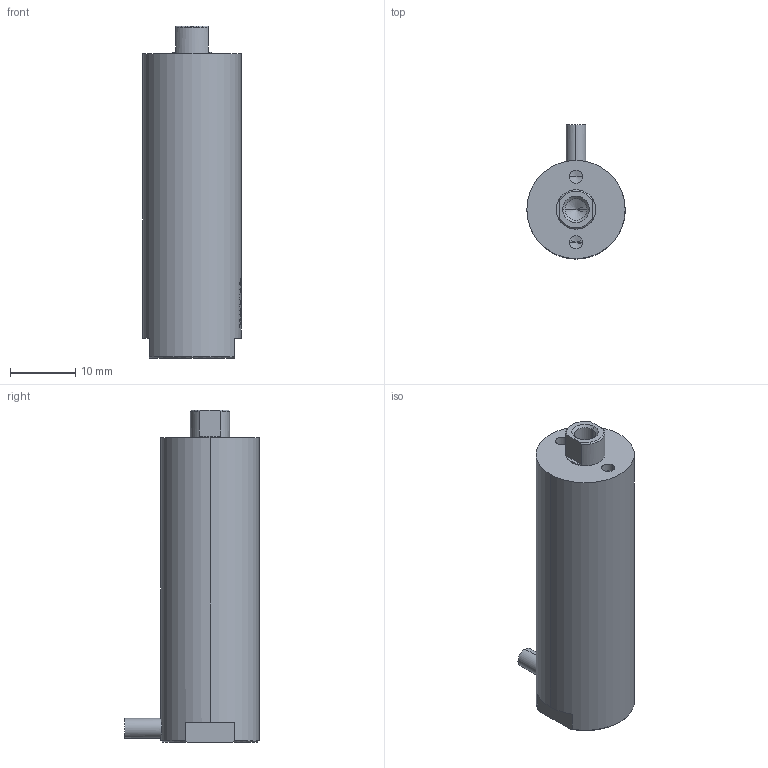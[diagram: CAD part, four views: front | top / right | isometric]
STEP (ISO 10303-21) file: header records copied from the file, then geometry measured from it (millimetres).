
FILE_DESCRIPTION (( 'STEP AP203' ), '1' );
FILE_NAME ('40VS15囀蹟恇.STEP', '2024-11-30T03:34:02', ( 'daohangxitong.com' ), ( 'daohangxitong.com' ), 'SwSTEP 2.0', 'SolidWorks 2016', '' );
FILE_SCHEMA (( 'CONFIG_CONTROL_DESIGN' ));
Length unit declared in the file: millimetre
Products named in the file (1): 40VS15囀蹟恇
Bounding box: 15 x 20.5 x 50.7 mm (x, y, z)
Volume: 8233.3 mm3; surface area: 2789.3 mm2
Topology: 1 solids, 1 shells, 948 faces, 2727 edges, 1810 vertices
Faces by surface type: bspline 831, plane 51, cylinder 50, cone 16
Entity records: 49653 total; most frequent: CARTESIAN_POINT 32214, ORIENTED_EDGE 5438, EDGE_CURVE 2719, B_SPLINE_CURVE_WITH_KNOTS 2548, VERTEX_POINT 1810, EDGE_LOOP 985, ADVANCED_FACE 948, FACE_OUTER_BOUND 948
